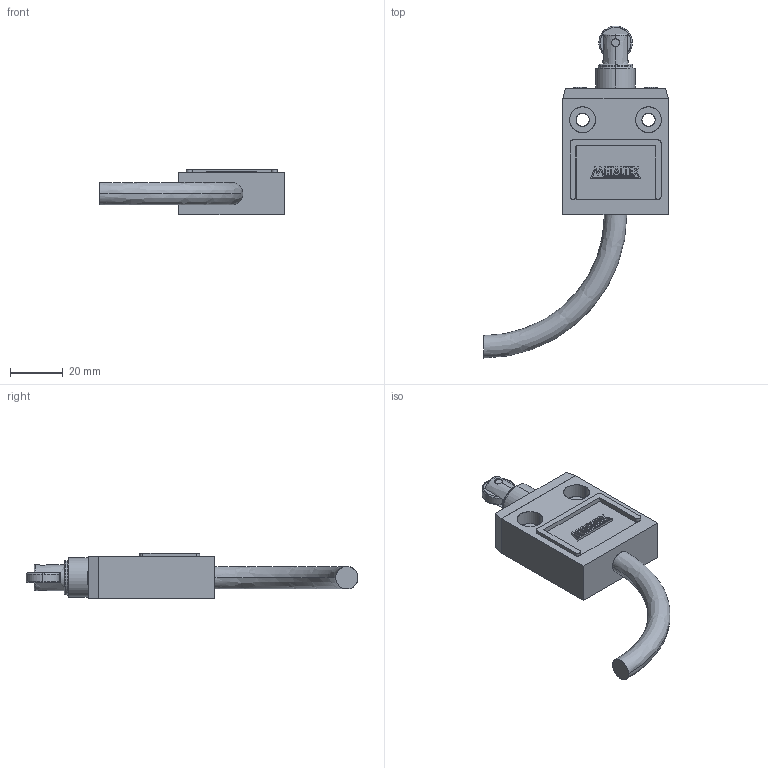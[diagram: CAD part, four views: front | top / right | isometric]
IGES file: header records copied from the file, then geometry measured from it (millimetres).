
Start section: SolidWorks IGES file using analytic representation for surfaces
Global section: file name: D:\X - Arquivos\PROEX\Empresas\P11 - METALTEX\01 - Produtos\IGES\6ª remessa\5ª etapa\TZ-3112.IGS; native system: SolidWorks 2012; preprocessor: SolidWorks 2012; author: Usuario; date: 190327.095546; units: millimetre
Bounding box: 70 x 125.9 x 17.3 mm (x, y, z)
Surface area: 11537.8 mm2 (no closed solid volume)
Topology: 0 solids, 0 shells, 244 faces, 2597 edges, 2597 vertices
Faces by surface type: bspline 200, revolution 44
